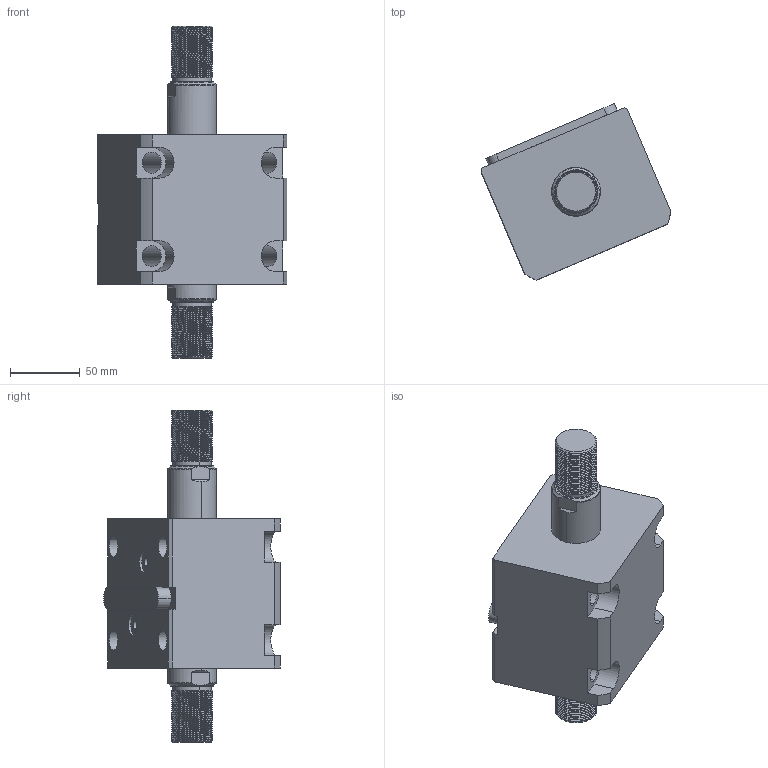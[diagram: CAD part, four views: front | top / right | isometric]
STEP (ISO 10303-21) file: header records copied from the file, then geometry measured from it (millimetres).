
FILE_DESCRIPTION (( 'STEP AP214' ), '1' );
FILE_NAME ('chtb-lwm63x25w_asm.STEP', '2018-05-22T01:27:56', ( 'Windows' ), ( 'Microsoft' ), 'SwSTEP 2.0', 'SolidWorks 2015', '' );
FILE_SCHEMA (( 'AUTOMOTIVE_DESIGN' ));
Length unit declared in the file: millimetre
Products named in the file (5): CHTB-SW63X25WHSG; CHTB-LWM63X25NBT; CHTB-LA63PJ; CHTB-63QG; chtb-lwm63x25w_asm
Assembly tree (4 placements, depth 2):
  chtb-lwm63x25w_asm
    CHTB-63QG
    CHTB-LA63PJ
    CHTB-LWM63X25NBT
    CHTB-SW63X25WHSG
Bounding box: 136.05 x 126.61 x 238 mm (x, y, z)
Volume: 1057938.8 mm3; surface area: 159903.3 mm2
Topology: 4 solids, 4 shells, 298 faces, 869 edges, 587 vertices
Faces by surface type: cylinder 203, plane 55, bspline 16, cone 12, torus 12
Entity records: 27660 total; most frequent: CARTESIAN_POINT 20506, ORIENTED_EDGE 1730, DIRECTION 1186, EDGE_CURVE 865, VERTEX_POINT 587, AXIS2_PLACEMENT_3D 440, EDGE_LOOP 326, LINE 306
